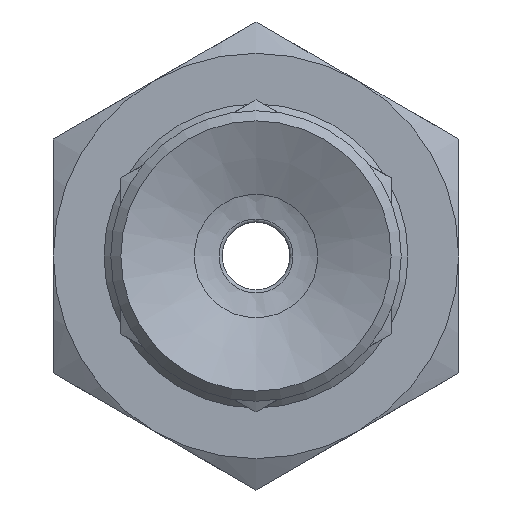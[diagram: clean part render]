
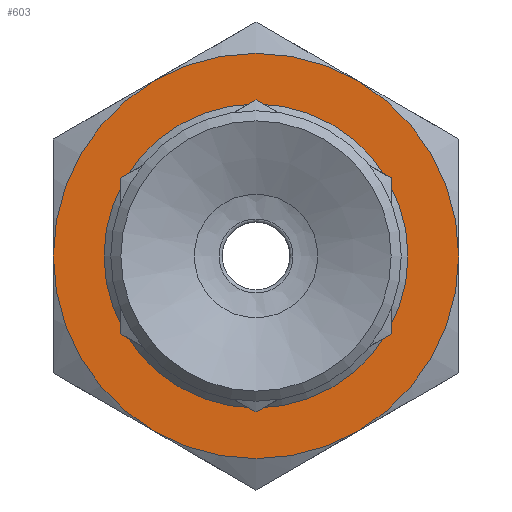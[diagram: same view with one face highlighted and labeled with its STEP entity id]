
A CAD part, front view. The second image highlights one B-rep face of the part: STEP entity #603.
In plain terms, the highlighted planar face has unit normal (0, -1, 0) as drawn and (0, 0, 1) by its records, which use the part's own axes.
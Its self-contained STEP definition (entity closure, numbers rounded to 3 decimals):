
#603=ADVANCED_FACE('',(#803,#804),#805,.T.);
#803=FACE_BOUND('',#1173,.T.);
#804=FACE_OUTER_BOUND('',#1174,.T.);
#805=PLANE('',#1175);
#1173=EDGE_LOOP('',(#1747));
#1174=EDGE_LOOP('',(#1748,#1749,#1750,#1751,#1752,#1753));
#1175=AXIS2_PLACEMENT_3D('',#1754,#1755,#1756);
#1747=ORIENTED_EDGE('',*,*,#2474,.T.);
#1748=ORIENTED_EDGE('',*,*,#2475,.T.);
#1749=ORIENTED_EDGE('',*,*,#2451,.T.);
#1750=ORIENTED_EDGE('',*,*,#2473,.T.);
#1751=ORIENTED_EDGE('',*,*,#2443,.T.);
#1752=ORIENTED_EDGE('',*,*,#2476,.T.);
#1753=ORIENTED_EDGE('',*,*,#2462,.T.);
#1754=CARTESIAN_POINT('',(-6.928,-6.0,3.0));
#1755=DIRECTION('',(0.0,0.0,1.0));
#1756=DIRECTION('',(1.0,0.0,0.0));
#2443=EDGE_CURVE('',#2708,#2699,#2709,.T.);
#2451=EDGE_CURVE('',#2723,#2714,#2724,.T.);
#2462=EDGE_CURVE('',#2742,#2733,#2743,.T.);
#2473=EDGE_CURVE('',#2714,#2708,#2758,.T.);
#2474=EDGE_CURVE('',#2759,#2759,#2760,.T.);
#2475=EDGE_CURVE('',#2733,#2723,#2761,.T.);
#2476=EDGE_CURVE('',#2699,#2742,#2762,.T.);
#2699=VERTEX_POINT('',#3184);
#2708=VERTEX_POINT('',#3206);
#2709=CIRCLE('',#3207,6.0);
#2714=VERTEX_POINT('',#3215);
#2723=VERTEX_POINT('',#3241);
#2724=CIRCLE('',#3242,6.0);
#2733=VERTEX_POINT('',#3264);
#2742=VERTEX_POINT('',#3286);
#2743=CIRCLE('',#3287,6.0);
#2758=CIRCLE('',#3324,6.0);
#2759=VERTEX_POINT('',#3325);
#2760=CIRCLE('',#3326,3.925);
#2761=CIRCLE('',#3327,6.0);
#2762=CIRCLE('',#3328,6.0);
#3184=CARTESIAN_POINT('',(-5.196,-3.0,3.0));
#3206=CARTESIAN_POINT('',(-5.196,3.0,3.0));
#3207=AXIS2_PLACEMENT_3D('',#3714,#3715,#3716);
#3215=CARTESIAN_POINT('',(0.,6.0,3.0));
#3241=CARTESIAN_POINT('',(5.196,3.0,3.0));
#3242=AXIS2_PLACEMENT_3D('',#3719,#3720,#3721);
#3264=CARTESIAN_POINT('',(5.196,-3.0,3.0));
#3286=CARTESIAN_POINT('',(0.,-6.0,3.0));
#3287=AXIS2_PLACEMENT_3D('',#3724,#3725,#3726);
#3324=AXIS2_PLACEMENT_3D('',#3739,#3740,#3741);
#3325=CARTESIAN_POINT('',(3.925,0.0,3.0));
#3326=AXIS2_PLACEMENT_3D('',#3742,#3743,#3744);
#3327=AXIS2_PLACEMENT_3D('',#3745,#3746,#3747);
#3328=AXIS2_PLACEMENT_3D('',#3748,#3749,#3750);
#3714=CARTESIAN_POINT('',(0.,0.0,3.0));
#3715=DIRECTION('',(0.0,0.,1.0));
#3716=DIRECTION('',(0.0,-1.0,0.));
#3719=CARTESIAN_POINT('',(0.,0.0,3.0));
#3720=DIRECTION('',(0.0,0.,1.0));
#3721=DIRECTION('',(0.0,-1.0,0.));
#3724=CARTESIAN_POINT('',(0.,0.0,3.0));
#3725=DIRECTION('',(0.0,0.,1.0));
#3726=DIRECTION('',(0.0,-1.0,0.));
#3739=CARTESIAN_POINT('',(0.,0.0,3.0));
#3740=DIRECTION('',(0.0,0.,1.0));
#3741=DIRECTION('',(0.0,-1.0,0.));
#3742=CARTESIAN_POINT('',(0.0,0.0,3.0));
#3743=DIRECTION('',(0.0,0.0,-1.0));
#3744=DIRECTION('',(1.0,0.0,0.0));
#3745=CARTESIAN_POINT('',(0.,0.0,3.0));
#3746=DIRECTION('',(0.0,0.,1.0));
#3747=DIRECTION('',(0.0,-1.0,0.));
#3748=CARTESIAN_POINT('',(0.,0.0,3.0));
#3749=DIRECTION('',(0.0,0.,1.0));
#3750=DIRECTION('',(0.0,-1.0,0.));
